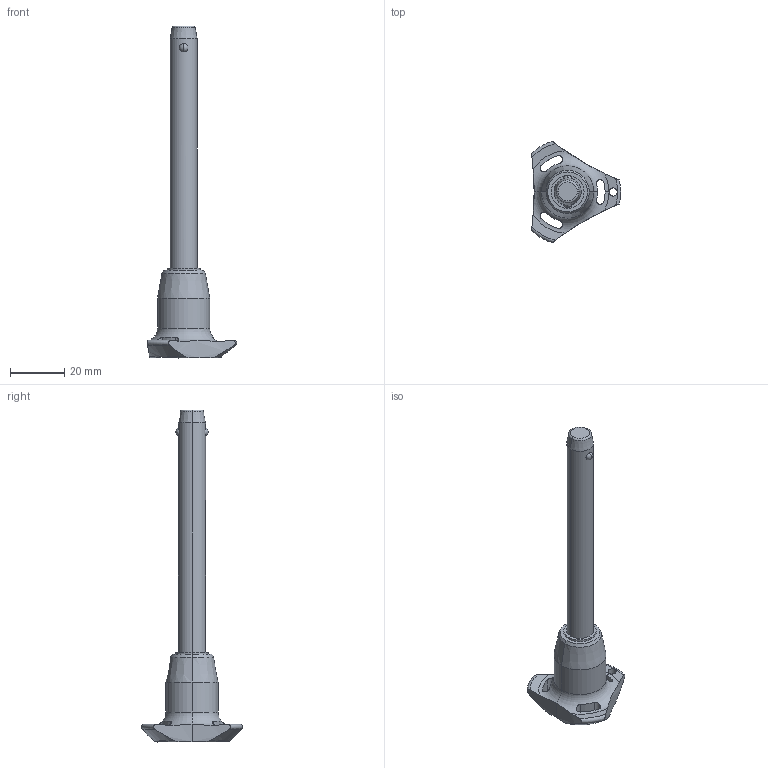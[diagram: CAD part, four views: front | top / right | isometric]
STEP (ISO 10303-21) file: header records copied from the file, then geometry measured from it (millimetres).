
FILE_DESCRIPTION (( 'STEP AP203' ), '1' );
FILE_NAME ('QR1704.M10-080-S.step', '2025-11-12T09:21:20', ( '' ), ( '' ), 'SwSTEP 2.0', 'SolidWorks 2019', '' );
FILE_SCHEMA (( 'CONFIG_CONTROL_DESIGN' ));
Length unit declared in the file: millimetre
Products named in the file (1): QR1704.M10-080-S
Bounding box: 33 x 37.51 x 122.9 mm (x, y, z)
Volume: 17363.1 mm3; surface area: 6677.7 mm2
Topology: 1 solids, 1 shells, 65 faces, 174 edges, 109 vertices
Faces by surface type: cylinder 30, cone 14, torus 11, sphere 6, plane 4
Entity records: 2758 total; most frequent: CARTESIAN_POINT 1085, ORIENTED_EDGE 348, DIRECTION 331, EDGE_CURVE 174, AXIS2_PLACEMENT_3D 147, VERTEX_POINT 109, CIRCLE 81, EDGE_LOOP 71
